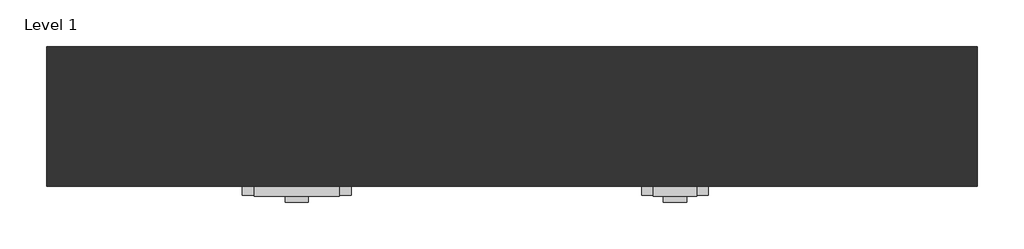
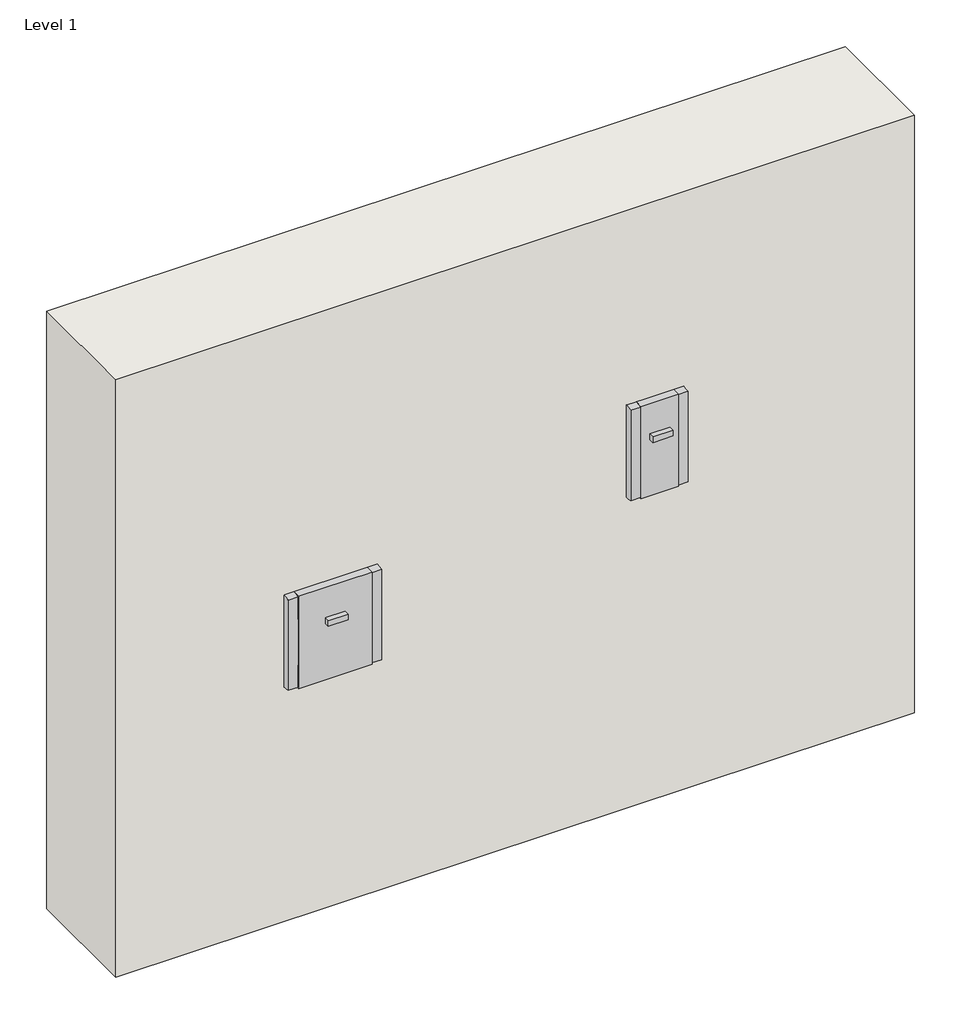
# One storey: 2 proxies, 1 wall.
"""IFC4 building model written with IfcOpenShell, lengths in millimetres."""

from ifc_helpers import new_model, si_unit, frame, origin, place, context, project, spatial, polyline, outline, extrude, transform, mapped, element, save
from components import gray_b8622a6b, ivory_70dfe3d4

model = new_model("IFC4")

# Units and contexts
model_context = context("Model", 3, world=origin())
ifc_project = project(units=[si_unit("LENGTHUNIT", "METRE", prefix="MILLI")], contexts=[model_context])

# Site, building, storey
site = spatial("IfcSite", under=ifc_project)
building = spatial("IfcBuilding", under=site)
storey = spatial("IfcBuildingStorey", under=building, Name="Level 1", Elevation=0.0)

# Proxies
placement = place(None, origin())
gray_shape = gray_b8622a6b(model_context)
element("IfcBuildingElementProxy", 1, Name="Switch-Pass_And_Seymour-Incandescent_Dimmer : Gray", ObjectType="Switch-Pass_And_Seymour-Incandescent_Dimmer : Gray", at=placement, inside=storey, context=model_context, shape_type="MappedRepresentation", body=[
    mapped(gray_shape, transform((2639.6473575, 1963.1766815, 920.5491527), x_axis=(1.0, 0.0, 0.0), y_axis=(0.0, 0.0, 1.0), z_axis=(0.0, -1.0, 0.0))),
])
ivory_shape = ivory_70dfe3d4(model_context)
element("IfcBuildingElementProxy", 2, Name="Switch-Pass_And_Seymour-Dimmer : Ivory", ObjectType="Switch-Pass_And_Seymour-Dimmer : Ivory", at=placement, inside=storey, context=model_context, shape_type="MappedRepresentation", body=[
    mapped(ivory_shape, transform((3052.3973575, 1963.1766815, 1023.197404), x_axis=(1.0, 0.0, 0.0), y_axis=(0.0, 0.0, 1.0), z_axis=(0.0, -1.0, 0.0))),
])

# Wall
element("IfcWall", 3, ObjectType="Exterior - 6\" Generic", at=placement, inside=storey, context=model_context, shape_type="SweptSolid", body=[
    extrude(outline(polyline([(3382.5973575, 1963.1766815), (2366.5973575, 1963.1766815), (2366.5973575, 2115.5766815), (3382.5973575, 2115.5766815), (3382.5973575, 1963.1766815)])), frame((0.0, 0.0, 542.8901471), z_axis=(0.0, 0.0, 1.0), x_axis=(1.0, 0.0, 0.0)), (0.0, 0.0, 1.0), 803.3098529),
])

save(model, "model.ifc")
